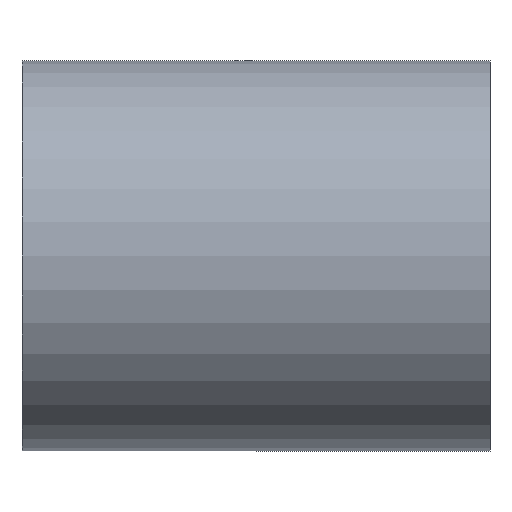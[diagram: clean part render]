
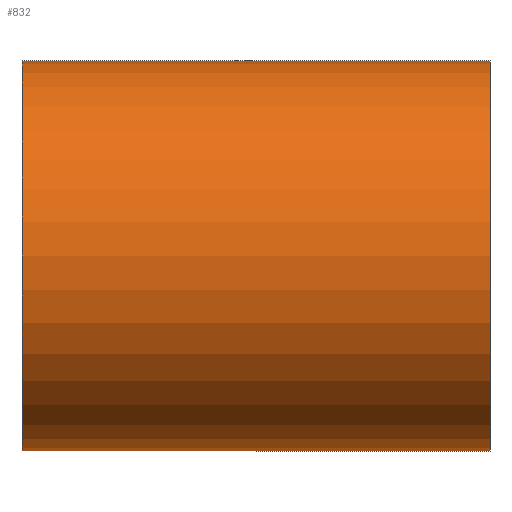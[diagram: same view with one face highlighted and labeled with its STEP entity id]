
A CAD part, front view. The second image highlights one B-rep face of the part: STEP entity #832.
In plain terms, the highlighted cylindrical face has radius 12.5 mm (diameter 25 mm), a partial arc.
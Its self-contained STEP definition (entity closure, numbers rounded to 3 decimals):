
#24 = ORIENTED_EDGE ( 'NONE', *, *, #524, .T. ) ;
#33 = DIRECTION ( 'NONE',  ( -1., 0., 0. ) ) ;
#59 = EDGE_CURVE ( 'NONE', #260, #409, #389, .T. ) ;
#65 = CARTESIAN_POINT ( 'NONE',  ( 15., 0., 12.5 ) ) ;
#72 = DIRECTION ( 'NONE',  ( 0., 0., 1. ) ) ;
#77 = DIRECTION ( 'NONE',  ( 0., 0., 1. ) ) ;
#82 = CARTESIAN_POINT ( 'NONE',  ( 0., 0., 12.5 ) ) ;
#116 = ORIENTED_EDGE ( 'NONE', *, *, #59, .T. ) ;
#128 = CARTESIAN_POINT ( 'NONE',  ( 15., 0., 0. ) ) ;
#142 = FACE_OUTER_BOUND ( 'NONE', #687, .T. ) ;
#181 = DIRECTION ( 'NONE',  ( -1., 0., 0. ) ) ;
#213 = CARTESIAN_POINT ( 'NONE',  ( -15., 0., 12.5 ) ) ;
#218 = CIRCLE ( 'NONE', #727, 12.5 ) ;
#219 = VECTOR ( 'NONE', #33, 1000. ) ;
#227 = CARTESIAN_POINT ( 'NONE',  ( 0., 0., 0. ) ) ;
#230 = DIRECTION ( 'NONE',  ( -1., 0., 0. ) ) ;
#231 = LINE ( 'NONE', #82, #219 ) ;
#260 = VERTEX_POINT ( 'NONE', #667 ) ;
#286 = DIRECTION ( 'NONE',  ( 0., 0., 1. ) ) ;
#321 = ORIENTED_EDGE ( 'NONE', *, *, #468, .F. ) ;
#341 = AXIS2_PLACEMENT_3D ( 'NONE', #128, #671, #72 ) ;
#389 = CIRCLE ( 'NONE', #341, 12.5 ) ;
#409 = VERTEX_POINT ( 'NONE', #65 ) ;
#429 = CYLINDRICAL_SURFACE ( 'NONE', #519, 12.5 ) ;
#463 = DIRECTION ( 'NONE',  ( -1., 0., 0. ) ) ;
#468 = EDGE_CURVE ( 'NONE', #845, #859, #218, .T. ) ;
#519 = AXIS2_PLACEMENT_3D ( 'NONE', #227, #230, #286 ) ;
#524 = EDGE_CURVE ( 'NONE', #409, #859, #231, .T. ) ;
#558 = CARTESIAN_POINT ( 'NONE',  ( -15., 0., -12.5 ) ) ;
#658 = EDGE_CURVE ( 'NONE', #260, #845, #733, .T. ) ;
#667 = CARTESIAN_POINT ( 'NONE',  ( 15., 0., -12.5 ) ) ;
#671 = DIRECTION ( 'NONE',  ( -1., 0., 0. ) ) ;
#687 = EDGE_LOOP ( 'NONE', ( #800, #116, #24, #321 ) ) ;
#722 = CARTESIAN_POINT ( 'NONE',  ( 0., 0., -12.5 ) ) ;
#727 = AXIS2_PLACEMENT_3D ( 'NONE', #757, #463, #77 ) ;
#733 = LINE ( 'NONE', #722, #772 ) ;
#757 = CARTESIAN_POINT ( 'NONE',  ( -15., 0., 0. ) ) ;
#772 = VECTOR ( 'NONE', #181, 1000. ) ;
#800 = ORIENTED_EDGE ( 'NONE', *, *, #658, .F. ) ;
#832 = ADVANCED_FACE ( 'NONE', ( #142 ), #429, .T. ) ;
#845 = VERTEX_POINT ( 'NONE', #558 ) ;
#859 = VERTEX_POINT ( 'NONE', #213 ) ;
